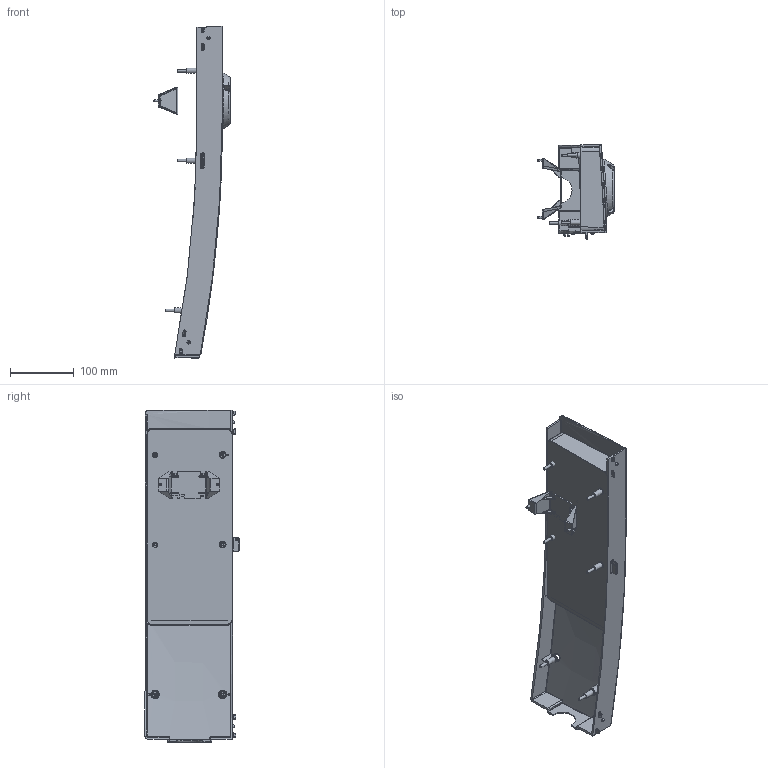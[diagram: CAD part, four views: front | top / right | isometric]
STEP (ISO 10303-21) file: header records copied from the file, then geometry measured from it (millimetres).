
FILE_DESCRIPTION(/* description */ (''),/* implementation_level */ '2;1');
FILE_NAME(/* name */ '4009984.stp',/* time_stamp */ '2017-11-10T08:20:00+01:00',/* author */ (''),/* organization */ (''),/* preprocessor_version */ 'ST-DEVELOPER v16',/* originating_system */ 'SIEMENS PLM Software NX 11.0',/* authorisation */ '');
FILE_SCHEMA (('AUTOMOTIVE_DESIGN { 1 0 10303 214 3 1 1 1 }'));
Length unit declared in the file: millimetre
Products named in the file (1): 4009984_LINKEDEXT_jt
Bounding box: 120.2 x 146.99 x 518.83 mm (x, y, z)
Surface area: 268351.1 mm2 (no closed solid volume)
Topology: 0 solids, 59 shells, 448 faces, 1660 edges, 1220 vertices
Faces by surface type: bspline 145, cylinder 130, plane 124, torus 28, cone 16, sphere 5
Full cylindrical faces by diameter (mm): 3.6 x2, 4 x6, 62.1 x1
Entity records: 28336 total; most frequent: CARTESIAN_POINT 12468, DIRECTION 2297, ORIENTED_EDGE 2261, EDGE_CURVE 1611, VERTEX_POINT 1203, AXIS2_PLACEMENT_3D 900, B_SPLINE_CURVE_WITH_KNOTS 518, PRESENTATION_STYLE_ASSIGNMENT 506
